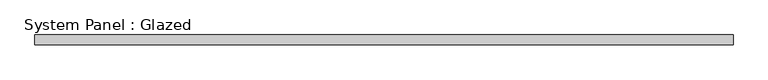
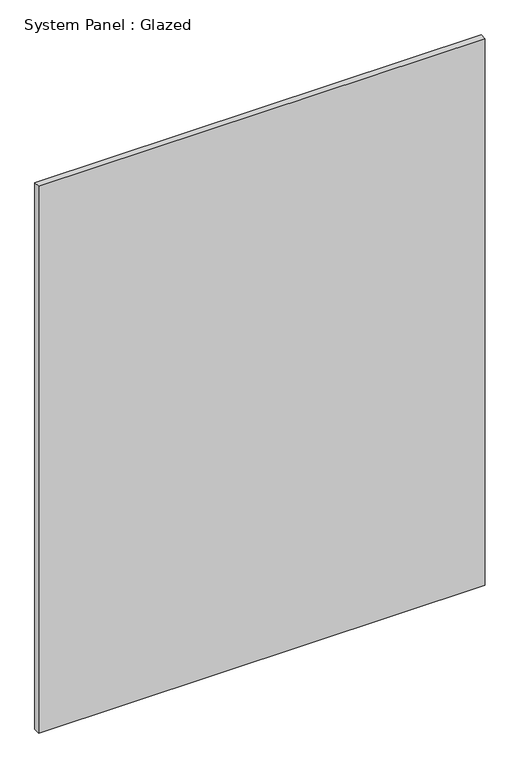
"""IFC4 building model written with IfcOpenShell, lengths in millimetres: plate geometry, System Panel : Glazed."""

from ifc_helpers import new_model, si_unit, origin, origin_with_axes, place, context, project, spatial, polyline, outline, extrude, source, transform, mapped, element, save


def system_panel_glazed_1e6a4927(model_context):
    return source(origin(), model_context, "Body", "SweptSolid", [
        extrude(outline(polyline([(891.9986512, 19.05), (-891.9986512, 19.05), (-891.9986512, 44.45), (891.9986512, 44.45), (891.9986512, 19.05)])), origin_with_axes(), (0.0, 0.0, 1.0), 2307.6414857),
    ])


if __name__ == "__main__":
    model = new_model("IFC4")
    model_context = context("Model", 3, world=origin())
    ifc_project = project(units=[si_unit("LENGTHUNIT", "METRE", prefix="MILLI")], contexts=[model_context])
    site = spatial("IfcSite", under=ifc_project)
    building = spatial("IfcBuilding", under=site)
    placement = place(None, origin())
    system_panel_glazed_shape = system_panel_glazed_1e6a4927(model_context)
    element("IfcPlate", 1, ObjectType="System Panel : Glazed", at=placement, inside=building, context=model_context, shape_type="MappedRepresentation", body=[
        mapped(system_panel_glazed_shape, transform((0.0, 0.0, 0.0), x_axis=(1.0, 0.0, 0.0), y_axis=(0.0, 1.0, 0.0), z_axis=(0.0, 0.0, 1.0))),
    ])
    save(model, "model.ifc")
